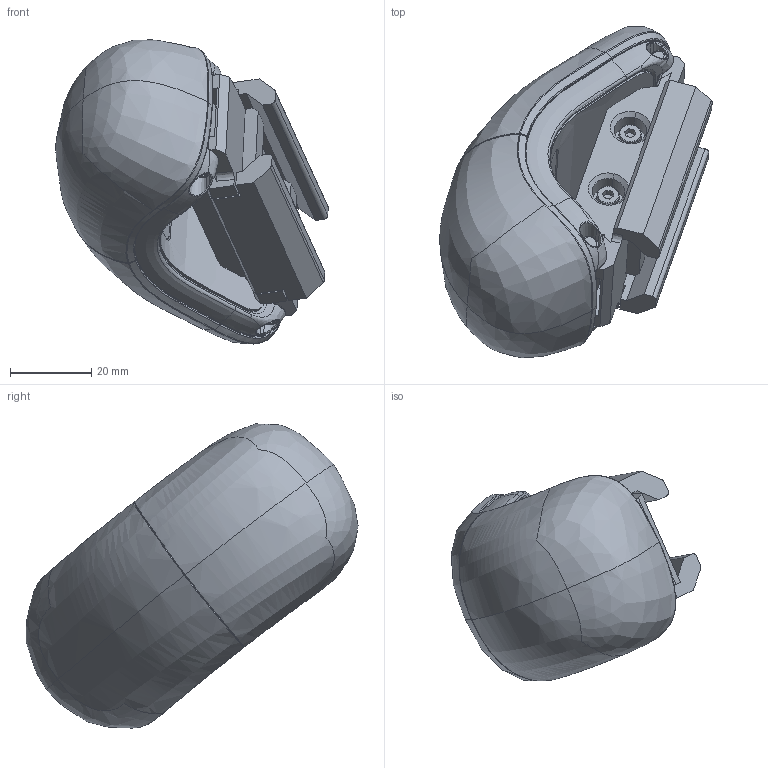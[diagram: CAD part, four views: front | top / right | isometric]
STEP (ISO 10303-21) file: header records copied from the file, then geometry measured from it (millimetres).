
FILE_DESCRIPTION(('Creo Elements/Direct Modeling STEP Export'),'2;1');
FILE_NAME('VIVE_Focus_3_Tracker_for_Picatinny_rail_20111117.stp','2021-11-17T15:41:26',(''),(''),'Creo Elements/Direct Modeling STEP processor for AP214 (Solid Model)','Creo Elements/Direct Modeling 20.4A 18-Oct-2021 (C) Parametric Technology GmbH','');
FILE_SCHEMA(('AUTOMOTIVE_DESIGN { 1 0 10303 214 1 1 1 1 }'));
Length unit declared in the file: millimetre
Products named in the file (20): p1; p2; p3; p4; p5; a1; BODY; PIN_BODY; PIN_HEAD; PIN_ASM.1; RUBBER; VIVE_Focus_3_Tracker; M3_L12.1; DOCKING_HOLDER-1; DOCKING_HOLDER-2; DOCKING_Holder_Picatinny_rail; VIVE_Focus_3_Tracker_for_Picatinny_rail
Assembly tree (21 placements, depth 5):
  VIVE_Focus_3_Tracker_for_Picatinny_rail
    DOCKING_Holder_Picatinny_rail
      DOCKING_HOLDER-2
      DOCKING_HOLDER-1
      M3_L12.1  x2
    VIVE_Focus_3_Tracker
      RUBBER
      PIN_ASM.1  x2
        PIN_HEAD
          p2
        PIN_BODY
          p2
      BODY
        p1
        a1
          p5
          p4
          p3
          p2
          p1
Bounding box: 67.13 x 81.81 x 74.94 mm (x, y, z)
Volume: 108692.1 mm3; surface area: 31214.8 mm2
Topology: 10 solids, 10 shells, 650 faces, 1686 edges, 1090 vertices
Faces by surface type: plane 225, bspline 196, cylinder 152, cone 44, torus 15, extrusion 14, sphere 4
Entity records: 47654 total; most frequent: CARTESIAN_POINT 34918, ORIENTED_EDGE 2950, DIRECTION 1918, EDGE_CURVE 1475, VERTEX_POINT 924, VECTOR 642, AXIS2_PLACEMENT_3D 638, LINE 628
